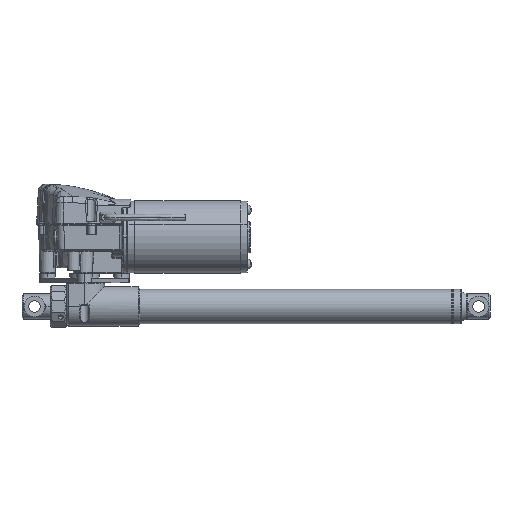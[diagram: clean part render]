
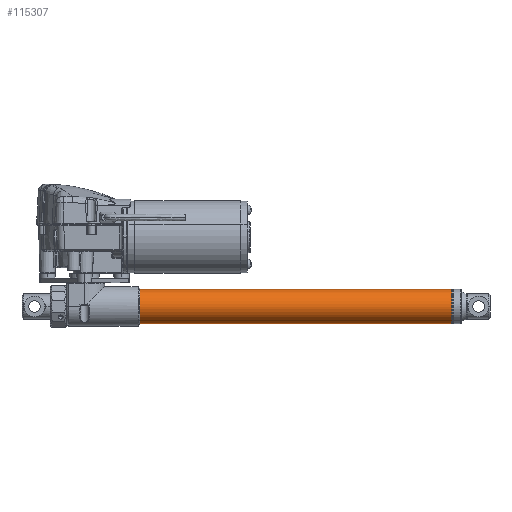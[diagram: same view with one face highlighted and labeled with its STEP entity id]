
A CAD part, front view. The second image highlights one B-rep face of the part: STEP entity #115307.
In plain terms, the highlighted cylindrical face has radius 15 mm (diameter 30 mm), a partial arc.
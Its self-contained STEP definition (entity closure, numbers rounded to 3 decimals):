
#6881 = EDGE_LOOP ( 'NONE', ( #15707, #15708, #15709, #15706 ) ) ;
#9528 = VERTEX_POINT ( 'NONE', #42333 ) ;
#9529 = VERTEX_POINT ( 'NONE', #42334 ) ;
#9530 = VERTEX_POINT ( 'NONE', #42335 ) ;
#9531 = VERTEX_POINT ( 'NONE', #42336 ) ;
#10949 = EDGE_CURVE ( 'NONE', #9529, #9530, #66609, .T. ) ;
#10952 = EDGE_CURVE ( 'NONE', #9528, #9531, #66618, .T. ) ;
#10975 = EDGE_CURVE ( 'NONE', #9531, #9530, #25635, .T. ) ;
#10976 = EDGE_CURVE ( 'NONE', #9529, #9528, #25636, .T. ) ;
#15706 = ORIENTED_EDGE ( 'NONE', *, *, #10975, .T. ) ;
#15707 = ORIENTED_EDGE ( 'NONE', *, *, #10949, .F. ) ;
#15708 = ORIENTED_EDGE ( 'NONE', *, *, #10976, .T. ) ;
#15709 = ORIENTED_EDGE ( 'NONE', *, *, #10952, .T. ) ;
#25635 = CIRCLE ( 'NONE', #66304, 15. ) ;
#25636 = CIRCLE ( 'NONE', #66305, 15. ) ;
#42333 = CARTESIAN_POINT ( 'NONE',  ( 0.8, 0., -15. ) ) ;
#42334 = CARTESIAN_POINT ( 'NONE',  ( 0.8, 0., 15. ) ) ;
#42335 = CARTESIAN_POINT ( 'NONE',  ( 292.5, 0., 15. ) ) ;
#42336 = CARTESIAN_POINT ( 'NONE',  ( 292.5, 0., -15. ) ) ;
#66280 = VECTOR ( 'NONE', #66611, 1000. ) ;
#66281 = VECTOR ( 'NONE', #66620, 1000. ) ;
#66304 = AXIS2_PLACEMENT_3D ( 'NONE', #66686, #66687, #66688 ) ;
#66305 = AXIS2_PLACEMENT_3D ( 'NONE', #66689, #66690, #66691 ) ;
#66609 = LINE ( 'NONE', #66610, #66280 ) ;
#66610 = CARTESIAN_POINT ( 'NONE',  ( 0., 0., 15. ) ) ;
#66611 = DIRECTION ( 'NONE',  ( 1., 0., 0. ) ) ;
#66618 = LINE ( 'NONE', #66619, #66281 ) ;
#66619 = CARTESIAN_POINT ( 'NONE',  ( 0., 0., -15. ) ) ;
#66620 = DIRECTION ( 'NONE',  ( 1., 0., 0. ) ) ;
#66686 = CARTESIAN_POINT ( 'NONE',  ( 292.5, 0., 0. ) ) ;
#66687 = DIRECTION ( 'NONE',  ( -1., 0., 0. ) ) ;
#66688 = DIRECTION ( 'NONE',  ( 0., 0., 1. ) ) ;
#66689 = CARTESIAN_POINT ( 'NONE',  ( 0.8, 0., 0. ) ) ;
#66690 = DIRECTION ( 'NONE',  ( 1., 0., 0. ) ) ;
#66691 = DIRECTION ( 'NONE',  ( 0., 0., -1. ) ) ;
#77398 = FACE_OUTER_BOUND ( 'NONE', #6881, .T. ) ;
#77401 = AXIS2_PLACEMENT_3D ( 'NONE', #90966, #90968, #90970 ) ;
#77404 = CYLINDRICAL_SURFACE ( 'NONE', #77401, 15. ) ;
#90966 = CARTESIAN_POINT ( 'NONE',  ( 0., 0., 0. ) ) ;
#90968 = DIRECTION ( 'NONE',  ( 1., 0., 0. ) ) ;
#90970 = DIRECTION ( 'NONE',  ( 0., 0., -1. ) ) ;
#115307 = ADVANCED_FACE ( 'NONE', ( #77398 ), #77404, .T. ) ;
